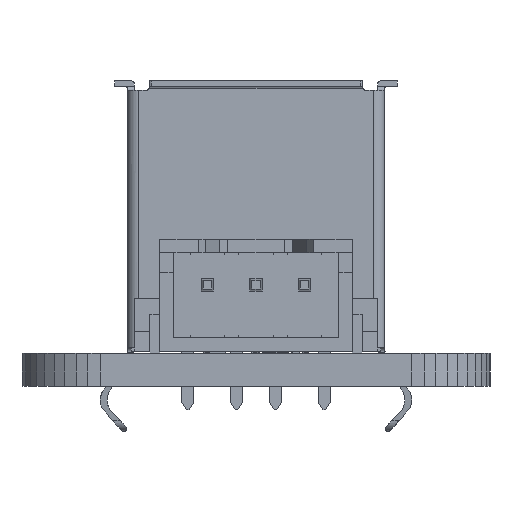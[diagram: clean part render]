
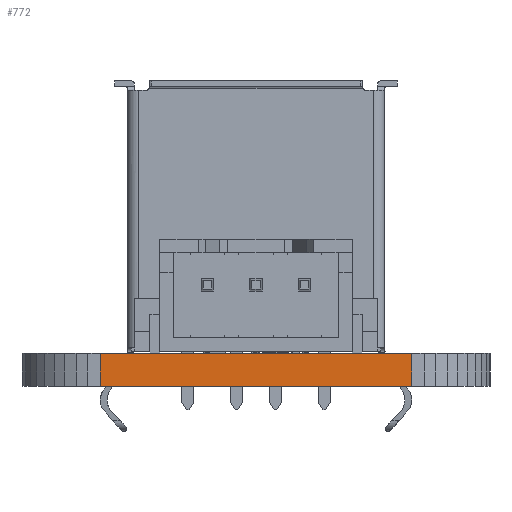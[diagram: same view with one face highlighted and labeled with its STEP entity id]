
A CAD part, front view. The second image highlights one B-rep face of the part: STEP entity #772.
In plain terms, the highlighted planar face has unit normal (0.001, -1, 0).
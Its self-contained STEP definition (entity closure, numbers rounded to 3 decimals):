
#99 = PLANE('',#100);
#100 = AXIS2_PLACEMENT_3D('',#101,#102,#103);
#101 = CARTESIAN_POINT('',(-11.963,-7.628,1.691));
#102 = DIRECTION('',(0.,0.,-1.));
#103 = DIRECTION('',(-1.,0.,0.));
#153 = PLANE('',#154);
#154 = AXIS2_PLACEMENT_3D('',#155,#156,#157);
#155 = CARTESIAN_POINT('',(-11.963,-7.628,0.));
#156 = DIRECTION('',(0.,0.,-1.));
#157 = DIRECTION('',(-1.,0.,0.));
#664 = PLANE('',#665);
#665 = AXIS2_PLACEMENT_3D('',#666,#667,#668);
#666 = CARTESIAN_POINT('',(-8.628,-10.963,0.));
#667 = DIRECTION('',(0.078,0.997,0.));
#668 = DIRECTION('',(0.997,-0.078,0.));
#702 = VERTEX_POINT('',#703);
#703 = CARTESIAN_POINT('',(-8.,-11.012,1.691));
#724 = EDGE_CURVE('',#725,#702,#727,.T.);
#725 = VERTEX_POINT('',#726);
#726 = CARTESIAN_POINT('',(-8.,-11.012,0.));
#727 = SURFACE_CURVE('',#728,(#732,#739),.PCURVE_S1.);
#728 = LINE('',#729,#730);
#729 = CARTESIAN_POINT('',(-8.,-11.012,0.));
#730 = VECTOR('',#731,1.);
#731 = DIRECTION('',(0.,0.,1.));
#732 = PCURVE('',#664,#733);
#733 = DEFINITIONAL_REPRESENTATION('',(#734),#738);
#734 = LINE('',#735,#736);
#735 = CARTESIAN_POINT('',(0.63,0.));
#736 = VECTOR('',#737,1.);
#737 = DIRECTION('',(0.,-1.));
#738 = ( GEOMETRIC_REPRESENTATION_CONTEXT(2) 
PARAMETRIC_REPRESENTATION_CONTEXT() REPRESENTATION_CONTEXT('2D SPACE',''
  ) );
#739 = PCURVE('',#740,#745);
#740 = PLANE('',#741);
#741 = AXIS2_PLACEMENT_3D('',#742,#743,#744);
#742 = CARTESIAN_POINT('',(-8.,-11.012,0.));
#743 = DIRECTION('',(-0.001,1.,0.));
#744 = DIRECTION('',(1.,0.001,0.));
#745 = DEFINITIONAL_REPRESENTATION('',(#746),#750);
#746 = LINE('',#747,#748);
#747 = CARTESIAN_POINT('',(0.,0.));
#748 = VECTOR('',#749,1.);
#749 = DIRECTION('',(0.,-1.));
#750 = ( GEOMETRIC_REPRESENTATION_CONTEXT(2) 
PARAMETRIC_REPRESENTATION_CONTEXT() REPRESENTATION_CONTEXT('2D SPACE',''
  ) );
#772 = ADVANCED_FACE('',(#773),#740,.F.);
#773 = FACE_BOUND('',#774,.F.);
#774 = EDGE_LOOP('',(#775,#776,#799,#827));
#775 = ORIENTED_EDGE('',*,*,#724,.T.);
#776 = ORIENTED_EDGE('',*,*,#777,.T.);
#777 = EDGE_CURVE('',#702,#778,#780,.T.);
#778 = VERTEX_POINT('',#779);
#779 = CARTESIAN_POINT('',(8.,-11.,1.691));
#780 = SURFACE_CURVE('',#781,(#785,#792),.PCURVE_S1.);
#781 = LINE('',#782,#783);
#782 = CARTESIAN_POINT('',(-8.,-11.012,1.691));
#783 = VECTOR('',#784,1.);
#784 = DIRECTION('',(1.,0.001,0.));
#785 = PCURVE('',#740,#786);
#786 = DEFINITIONAL_REPRESENTATION('',(#787),#791);
#787 = LINE('',#788,#789);
#788 = CARTESIAN_POINT('',(0.,-1.691));
#789 = VECTOR('',#790,1.);
#790 = DIRECTION('',(1.,0.));
#791 = ( GEOMETRIC_REPRESENTATION_CONTEXT(2) 
PARAMETRIC_REPRESENTATION_CONTEXT() REPRESENTATION_CONTEXT('2D SPACE',''
  ) );
#792 = PCURVE('',#99,#793);
#793 = DEFINITIONAL_REPRESENTATION('',(#794),#798);
#794 = LINE('',#795,#796);
#795 = CARTESIAN_POINT('',(-3.963,-3.385));
#796 = VECTOR('',#797,1.);
#797 = DIRECTION('',(-1.,0.001));
#798 = ( GEOMETRIC_REPRESENTATION_CONTEXT(2) 
PARAMETRIC_REPRESENTATION_CONTEXT() REPRESENTATION_CONTEXT('2D SPACE',''
  ) );
#799 = ORIENTED_EDGE('',*,*,#800,.F.);
#800 = EDGE_CURVE('',#801,#778,#803,.T.);
#801 = VERTEX_POINT('',#802);
#802 = CARTESIAN_POINT('',(8.,-11.,0.));
#803 = SURFACE_CURVE('',#804,(#808,#815),.PCURVE_S1.);
#804 = LINE('',#805,#806);
#805 = CARTESIAN_POINT('',(8.,-11.,0.));
#806 = VECTOR('',#807,1.);
#807 = DIRECTION('',(0.,0.,1.));
#808 = PCURVE('',#740,#809);
#809 = DEFINITIONAL_REPRESENTATION('',(#810),#814);
#810 = LINE('',#811,#812);
#811 = CARTESIAN_POINT('',(16.,0.));
#812 = VECTOR('',#813,1.);
#813 = DIRECTION('',(0.,-1.));
#814 = ( GEOMETRIC_REPRESENTATION_CONTEXT(2) 
PARAMETRIC_REPRESENTATION_CONTEXT() REPRESENTATION_CONTEXT('2D SPACE',''
  ) );
#815 = PCURVE('',#816,#821);
#816 = PLANE('',#817);
#817 = AXIS2_PLACEMENT_3D('',#818,#819,#820);
#818 = CARTESIAN_POINT('',(8.,-11.,0.));
#819 = DIRECTION('',(-0.059,0.998,0.));
#820 = DIRECTION('',(0.998,0.059,0.));
#821 = DEFINITIONAL_REPRESENTATION('',(#822),#826);
#822 = LINE('',#823,#824);
#823 = CARTESIAN_POINT('',(0.,0.));
#824 = VECTOR('',#825,1.);
#825 = DIRECTION('',(0.,-1.));
#826 = ( GEOMETRIC_REPRESENTATION_CONTEXT(2) 
PARAMETRIC_REPRESENTATION_CONTEXT() REPRESENTATION_CONTEXT('2D SPACE',''
  ) );
#827 = ORIENTED_EDGE('',*,*,#828,.F.);
#828 = EDGE_CURVE('',#725,#801,#829,.T.);
#829 = SURFACE_CURVE('',#830,(#834,#841),.PCURVE_S1.);
#830 = LINE('',#831,#832);
#831 = CARTESIAN_POINT('',(-8.,-11.012,0.));
#832 = VECTOR('',#833,1.);
#833 = DIRECTION('',(1.,0.001,0.));
#834 = PCURVE('',#740,#835);
#835 = DEFINITIONAL_REPRESENTATION('',(#836),#840);
#836 = LINE('',#837,#838);
#837 = CARTESIAN_POINT('',(0.,0.));
#838 = VECTOR('',#839,1.);
#839 = DIRECTION('',(1.,0.));
#840 = ( GEOMETRIC_REPRESENTATION_CONTEXT(2) 
PARAMETRIC_REPRESENTATION_CONTEXT() REPRESENTATION_CONTEXT('2D SPACE',''
  ) );
#841 = PCURVE('',#153,#842);
#842 = DEFINITIONAL_REPRESENTATION('',(#843),#847);
#843 = LINE('',#844,#845);
#844 = CARTESIAN_POINT('',(-3.963,-3.385));
#845 = VECTOR('',#846,1.);
#846 = DIRECTION('',(-1.,0.001));
#847 = ( GEOMETRIC_REPRESENTATION_CONTEXT(2) 
PARAMETRIC_REPRESENTATION_CONTEXT() REPRESENTATION_CONTEXT('2D SPACE',''
  ) );
